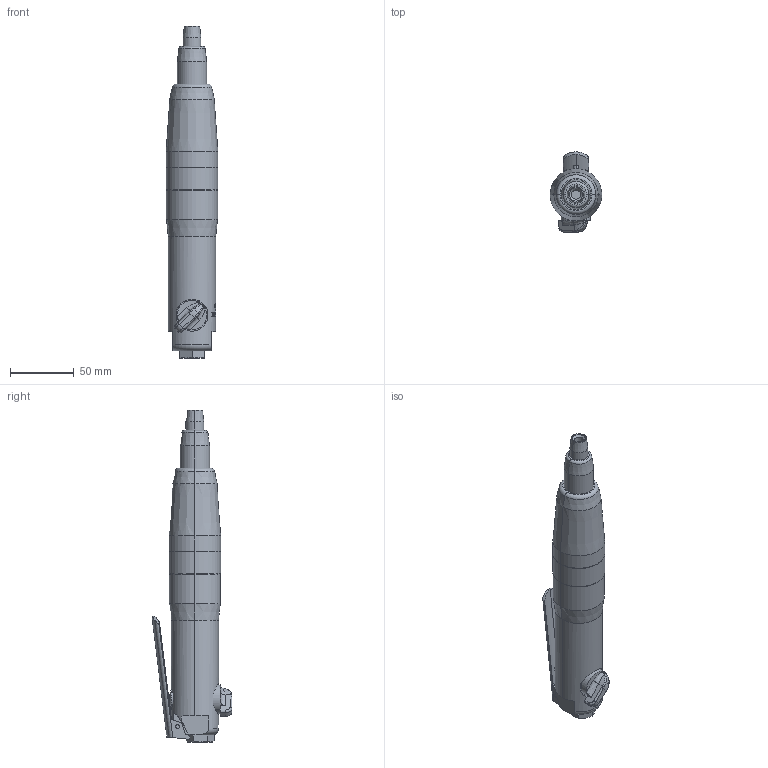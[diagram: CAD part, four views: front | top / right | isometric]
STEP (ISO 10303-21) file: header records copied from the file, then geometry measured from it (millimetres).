
FILE_DESCRIPTION (( 'STEP AP203' ), '1' );
FILE_NAME ('US-5.STEP', '2006-05-24T07:56:55', ( '' ), ( '' ), 'SwSTEP 2.0', 'SolidWorks 2003240', '' );
FILE_SCHEMA (( 'CONFIG_CONTROL_DESIGN' ));
Length unit declared in the file: millimetre
Products named in the file (10): 9174000_US-5_蹬怮椔; 4307821_US-5_蹬怮椔; 4182121_US-5_蹬怮椔; US-5; 4303601_US-5_蹬怮椔; 4300571_US-5_蹬怮椔; 4180251_US-5_蹬怮椔; 9703210_US-5_蹬怮椔; 4181071_US-5_蹬怮椔; 9810020_US-5_蹬怮椔
Assembly tree (9 placements, depth 2):
  US-5
    4300571_US-5_蹬怮椔
    4181071_US-5_蹬怮椔
    4307821_US-5_蹬怮椔
    9174000_US-5_蹬怮椔
    9810020_US-5_蹬怮椔
    4180251_US-5_蹬怮椔
    4182121_US-5_蹬怮椔
    9703210_US-5_蹬怮椔
    4303601_US-5_蹬怮椔
Bounding box: 40.5 x 62.56 x 259.7 mm (x, y, z)
Volume: 247712.5 mm3; surface area: 47370 mm2
Topology: 9 solids, 9 shells, 376 faces, 956 edges, 620 vertices
Faces by surface type: cylinder 147, plane 127, bspline 66, cone 24, torus 8, sphere 4
Entity records: 18081 total; most frequent: CARTESIAN_POINT 8739, ORIENTED_EDGE 1902, DIRECTION 1470, EDGE_CURVE 951, VERTEX_POINT 617, AXIS2_PLACEMENT_3D 557, EDGE_LOOP 410, ADVANCED_FACE 376
